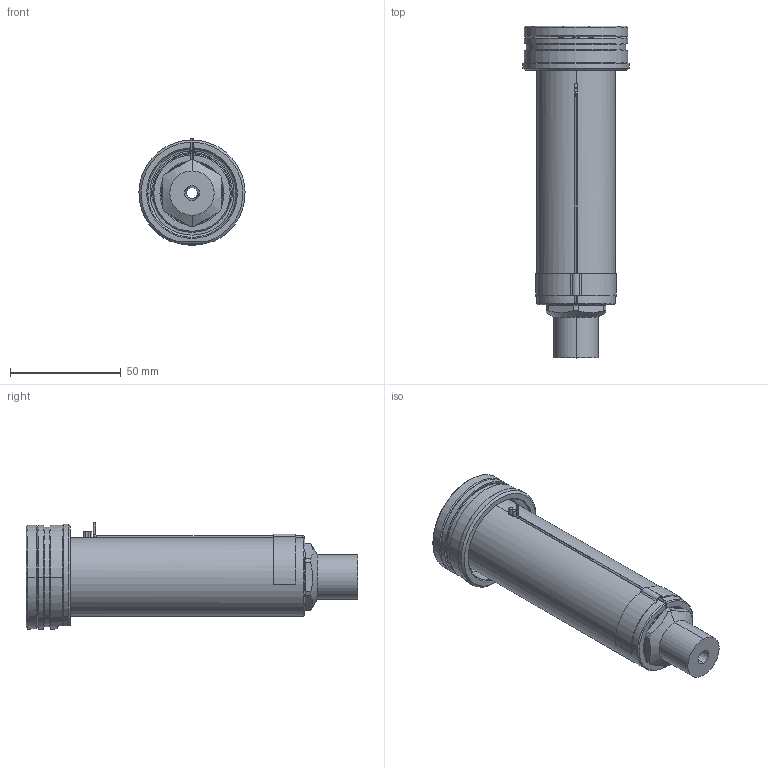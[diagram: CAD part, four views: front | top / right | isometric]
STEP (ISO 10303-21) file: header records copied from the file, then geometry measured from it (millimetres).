
FILE_DESCRIPTION((''),'2;1');
FILE_NAME('EO16_VG-FBE_STD_120_SW','2024-02-19T14:09:59',('sundharh'),(''),'CREO PARAMETRIC BY PTC INC, 2023154','CREO PARAMETRIC BY PTC INC, 2023154','');
FILE_SCHEMA(('CONFIG_CONTROL_DESIGN'));
Length unit declared in the file: millimetre
Products named in the file (1): EO16_VG-FBE_STD_120_SW
Bounding box: 47.97 x 150 x 48 mm (x, y, z)
Volume: 119117.7 mm3; surface area: 32057.5 mm2
Topology: 1 solids, 1 shells, 199 faces, 478 edges, 288 vertices
Faces by surface type: cylinder 72, plane 47, cone 41, torus 24, bspline 13, sphere 2
Entity records: 6660 total; most frequent: CARTESIAN_POINT 1938, DIRECTION 1064, ORIENTED_EDGE 944, EDGE_CURVE 472, AXIS2_PLACEMENT_3D 446, VERTEX_POINT 288, CIRCLE 260, EDGE_LOOP 216
